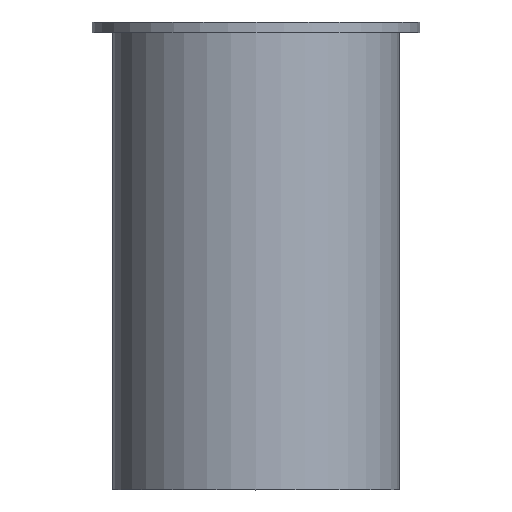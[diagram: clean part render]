
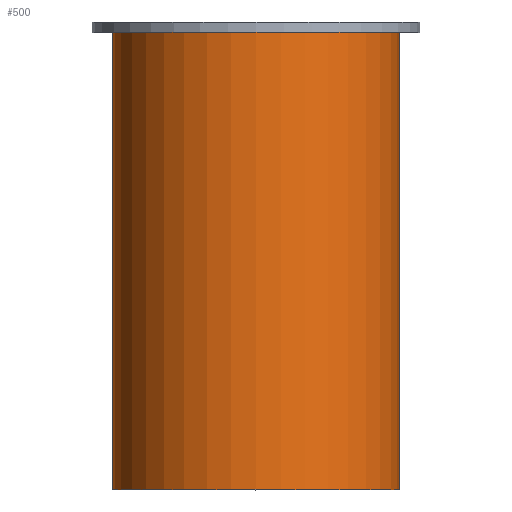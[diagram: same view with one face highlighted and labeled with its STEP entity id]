
A CAD part, top view. The second image highlights one B-rep face of the part: STEP entity #500.
In plain terms, the highlighted cylindrical face has radius 56 mm (diameter 112 mm), a full revolution.
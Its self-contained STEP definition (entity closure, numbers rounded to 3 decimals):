
#89=FACE_OUTER_BOUND('',#131,.T.);
#131=EDGE_LOOP('',(#429,#430,#431,#432));
#171=LINE('',#874,#191);
#191=VECTOR('',#730,56.);
#213=CIRCLE('',#558,56.);
#230=CIRCLE('',#584,56.);
#260=VERTEX_POINT('',#822);
#277=VERTEX_POINT('',#873);
#309=EDGE_CURVE('',#260,#260,#213,.T.);
#334=EDGE_CURVE('',#260,#277,#171,.T.);
#335=EDGE_CURVE('',#277,#277,#230,.T.);
#429=ORIENTED_EDGE('',*,*,#309,.F.);
#430=ORIENTED_EDGE('',*,*,#334,.T.);
#431=ORIENTED_EDGE('',*,*,#335,.F.);
#432=ORIENTED_EDGE('',*,*,#334,.F.);
#478=CYLINDRICAL_SURFACE('',#583,56.);
#500=ADVANCED_FACE('',(#89),#478,.T.);
#558=AXIS2_PLACEMENT_3D('',#823,#670,#671);
#583=AXIS2_PLACEMENT_3D('',#872,#728,#729);
#584=AXIS2_PLACEMENT_3D('',#875,#731,#732);
#670=DIRECTION('center_axis',(0.,-1.,0.));
#671=DIRECTION('ref_axis',(1.,0.,0.));
#728=DIRECTION('center_axis',(0.,-1.,0.));
#729=DIRECTION('ref_axis',(-1.,0.,0.));
#730=DIRECTION('',(0.,1.,0.));
#731=DIRECTION('center_axis',(0.,1.,0.));
#732=DIRECTION('ref_axis',(-1.,0.,0.));
#822=CARTESIAN_POINT('',(56.,-178.5,0.));
#823=CARTESIAN_POINT('Origin',(0.,-178.5,0.));
#872=CARTESIAN_POINT('Origin',(0.,0.,0.));
#873=CARTESIAN_POINT('',(56.,0.,0.));
#874=CARTESIAN_POINT('',(56.,0.,0.));
#875=CARTESIAN_POINT('Origin',(0.,0.,0.));
